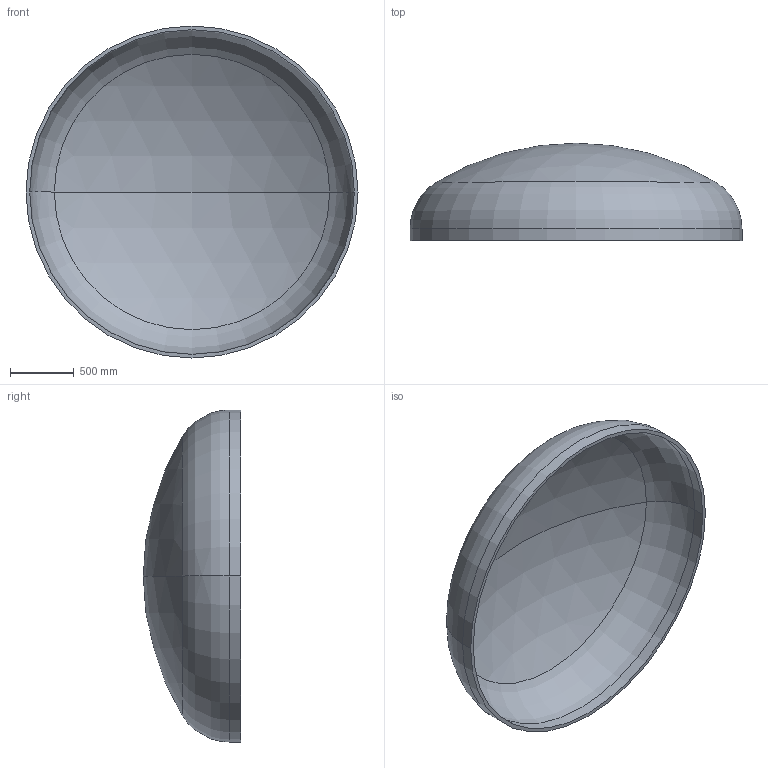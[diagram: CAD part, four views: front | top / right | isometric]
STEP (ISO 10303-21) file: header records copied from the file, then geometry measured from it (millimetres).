
FILE_DESCRIPTION (( 'STEP AP203' ), '1' );
FILE_NAME ('DIN 28013 Korbbogenform_-_Boden DIN 28013 - 2600 x 90 - I - s=29.step', '2016-07-01T16:04:17', ( '' ), ( '' ), 'SwSTEP 2.0', 'SolidWorks 2013', '' );
FILE_SCHEMA (( 'CONFIG_CONTROL_DESIGN' ));
Length unit declared in the file: millimetre
Products named in the file (1): DIN 28013 Korbbogenform_-_Boden DIN 28013 - 2600 x 90 - I - s=29
Bounding box: 2600 x 762.42 x 2600 mm (x, y, z)
Volume: 231163085.7 mm3; surface area: 16178271.4 mm2
Topology: 1 solids, 1 shells, 13 faces, 24 edges, 14 vertices
Faces by surface type: torus 4, cylinder 4, sphere 4, plane 1
Entity records: 407 total; most frequent: DIRECTION 72, CARTESIAN_POINT 52, ORIENTED_EDGE 48, AXIS2_PLACEMENT_3D 34, EDGE_CURVE 24, CIRCLE 20, VERTEX_POINT 14, EDGE_LOOP 14
